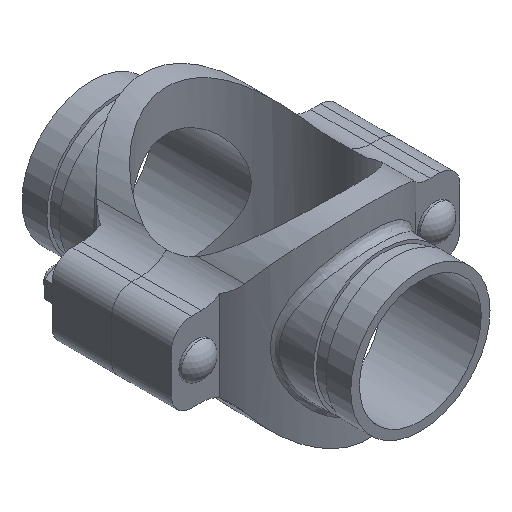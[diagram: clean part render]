
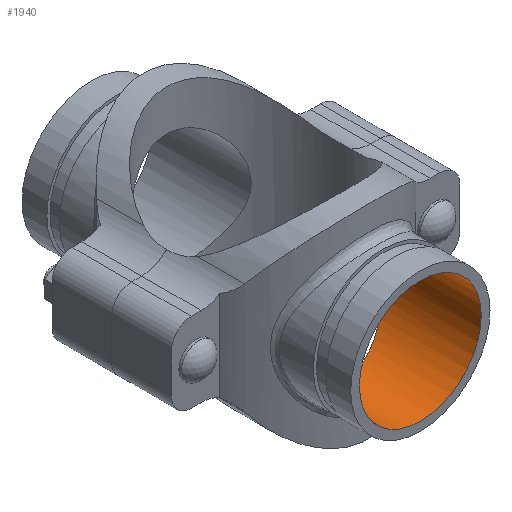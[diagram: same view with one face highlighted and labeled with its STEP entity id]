
A CAD part, isometric view. The second image highlights one B-rep face of the part: STEP entity #1940.
In plain terms, the highlighted cylindrical face has radius 38.894 mm (diameter 77.787 mm), a full revolution.
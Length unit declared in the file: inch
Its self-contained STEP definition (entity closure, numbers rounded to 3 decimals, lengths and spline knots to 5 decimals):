
#48=B_SPLINE_CURVE_WITH_KNOTS('',3,(#3892,#3893,#3894,#3895,#3896,#3897,
#3898,#3899,#3900,#3901,#3902,#3903,#3904,#3905,#3906,#3907,#3908,#3909,
#3910,#3911,#3912,#3913,#3914,#3915,#3916,#3917,#3918,#3919,#3920,#3921,
#3922,#3923,#3924,#3925,#3926,#3927,#3928,#3929,#3930,#3931,#3932,#3933,
#3934,#3935,#3936,#3937,#3938,#3939,#3940,#3941,#3942,#3943,#3944,#3945,
#3946,#3947,#3948,#3949,#3950,#3951,#3952,#3953,#3954,#3955,#3956,#3957),
 .UNSPECIFIED.,.T.,.F.,(4,2,2,2,2,2,2,2,2,2,2,2,2,2,2,2,2,2,2,2,2,2,2,2,
2,2,2,2,2,2,2,2,4),(0.,0.76949,1.53899,2.30848,
3.07797,3.83802,4.59808,5.35813,6.11819,
6.87824,7.63829,8.39835,9.1584,9.9279,
10.69739,11.46688,12.23637,13.00587,13.77536,
14.54485,15.31434,16.0744,16.83445,17.59451,
18.35456,19.11461,19.87467,20.63472,21.39478,
22.16427,22.93376,23.70325,24.47275),
 .UNSPECIFIED.);
#91=CYLINDRICAL_SURFACE('',#2169,1.53125);
#206=FACE_OUTER_BOUND('',#326,.T.);
#326=EDGE_LOOP('',(#1552,#1553,#1554,#1555));
#474=LINE('',#3891,#620);
#620=VECTOR('',#2620,1.53125);
#716=CIRCLE('',#2170,1.53125);
#877=VERTEX_POINT('',#3888);
#878=VERTEX_POINT('',#3890);
#1116=EDGE_CURVE('',#877,#877,#716,.T.);
#1117=EDGE_CURVE('',#877,#878,#474,.T.);
#1118=EDGE_CURVE('',#878,#878,#48,.T.);
#1552=ORIENTED_EDGE('',*,*,#1116,.F.);
#1553=ORIENTED_EDGE('',*,*,#1117,.T.);
#1554=ORIENTED_EDGE('',*,*,#1118,.F.);
#1555=ORIENTED_EDGE('',*,*,#1117,.F.);
#1940=ADVANCED_FACE('',(#206),#91,.F.);
#2169=AXIS2_PLACEMENT_3D('',#3887,#2616,#2617);
#2170=AXIS2_PLACEMENT_3D('',#3889,#2618,#2619);
#2616=DIRECTION('center_axis',(0.,-1.,0.));
#2617=DIRECTION('ref_axis',(-1.,0.,0.));
#2618=DIRECTION('center_axis',(0.,-1.,0.));
#2619=DIRECTION('ref_axis',(-1.,0.,0.));
#2620=DIRECTION('',(0.,-1.,0.));
#3887=CARTESIAN_POINT('Origin',(0.,4.13,0.));
#3888=CARTESIAN_POINT('',(1.53125,4.13,0.));
#3889=CARTESIAN_POINT('Origin',(0.,4.13,0.));
#3890=CARTESIAN_POINT('',(1.53125,1.64857,0.));
#3891=CARTESIAN_POINT('',(1.53125,4.13,0.));
#3892=CARTESIAN_POINT('Ctrl Pts',(1.53125,1.64857,0.));
#3893=CARTESIAN_POINT('Ctrl Pts',(1.53125,1.64857,-0.10098));
#3894=CARTESIAN_POINT('Ctrl Pts',(1.52113,1.65813,-0.20339));
#3895=CARTESIAN_POINT('Ctrl Pts',(1.48054,1.69448,-0.40399));
#3896=CARTESIAN_POINT('Ctrl Pts',(1.45009,1.72113,-0.50223));
#3897=CARTESIAN_POINT('Ctrl Pts',(1.37128,1.78456,-0.6889));
#3898=CARTESIAN_POINT('Ctrl Pts',(1.32285,1.82128,-0.77754));
#3899=CARTESIAN_POINT('Ctrl Pts',(1.21189,1.89693,-0.94118));
#3900=CARTESIAN_POINT('Ctrl Pts',(1.14932,1.9358,-1.01619));
#3901=CARTESIAN_POINT('Ctrl Pts',(1.01701,2.00844,-1.14851));
#3902=CARTESIAN_POINT('Ctrl Pts',(0.94244,2.04503,-1.21092));
#3903=CARTESIAN_POINT('Ctrl Pts',(0.77875,2.11279,-1.32214));
#3904=CARTESIAN_POINT('Ctrl Pts',(0.68961,2.14393,-1.37097));
#3905=CARTESIAN_POINT('Ctrl Pts',(0.50176,2.1955,-1.4503));
#3906=CARTESIAN_POINT('Ctrl Pts',(0.40284,2.21597,-1.48086));
#3907=CARTESIAN_POINT('Ctrl Pts',(0.20184,2.24322,-1.52135));
#3908=CARTESIAN_POINT('Ctrl Pts',(0.09974,2.25,-1.53125));
#3909=CARTESIAN_POINT('Ctrl Pts',(-0.09974,2.25,-1.53125));
#3910=CARTESIAN_POINT('Ctrl Pts',(-0.20184,2.24322,-1.52135));
#3911=CARTESIAN_POINT('Ctrl Pts',(-0.40284,2.21597,-1.48086));
#3912=CARTESIAN_POINT('Ctrl Pts',(-0.50176,2.1955,-1.4503));
#3913=CARTESIAN_POINT('Ctrl Pts',(-0.68961,2.14393,-1.37097));
#3914=CARTESIAN_POINT('Ctrl Pts',(-0.77875,2.11279,-1.32214));
#3915=CARTESIAN_POINT('Ctrl Pts',(-0.94244,2.04503,-1.21092));
#3916=CARTESIAN_POINT('Ctrl Pts',(-1.01701,2.00844,-1.14851));
#3917=CARTESIAN_POINT('Ctrl Pts',(-1.14932,1.9358,-1.01619));
#3918=CARTESIAN_POINT('Ctrl Pts',(-1.21189,1.89693,-0.94118));
#3919=CARTESIAN_POINT('Ctrl Pts',(-1.32285,1.82128,-0.77754));
#3920=CARTESIAN_POINT('Ctrl Pts',(-1.37128,1.78456,-0.6889));
#3921=CARTESIAN_POINT('Ctrl Pts',(-1.45009,1.72113,-0.50223));
#3922=CARTESIAN_POINT('Ctrl Pts',(-1.48054,1.69448,-0.40399));
#3923=CARTESIAN_POINT('Ctrl Pts',(-1.52113,1.65813,-0.20339));
#3924=CARTESIAN_POINT('Ctrl Pts',(-1.53125,1.64857,-0.10098));
#3925=CARTESIAN_POINT('Ctrl Pts',(-1.53125,1.64857,0.10098));
#3926=CARTESIAN_POINT('Ctrl Pts',(-1.52113,1.65813,0.20339));
#3927=CARTESIAN_POINT('Ctrl Pts',(-1.48054,1.69448,0.40399));
#3928=CARTESIAN_POINT('Ctrl Pts',(-1.45009,1.72113,0.50223));
#3929=CARTESIAN_POINT('Ctrl Pts',(-1.37128,1.78456,0.6889));
#3930=CARTESIAN_POINT('Ctrl Pts',(-1.32285,1.82128,0.77754));
#3931=CARTESIAN_POINT('Ctrl Pts',(-1.21189,1.89693,0.94118));
#3932=CARTESIAN_POINT('Ctrl Pts',(-1.14932,1.9358,1.01619));
#3933=CARTESIAN_POINT('Ctrl Pts',(-1.01701,2.00844,1.14851));
#3934=CARTESIAN_POINT('Ctrl Pts',(-0.94244,2.04503,1.21092));
#3935=CARTESIAN_POINT('Ctrl Pts',(-0.77875,2.11279,1.32214));
#3936=CARTESIAN_POINT('Ctrl Pts',(-0.68961,2.14393,1.37097));
#3937=CARTESIAN_POINT('Ctrl Pts',(-0.50176,2.1955,1.4503));
#3938=CARTESIAN_POINT('Ctrl Pts',(-0.40284,2.21597,1.48086));
#3939=CARTESIAN_POINT('Ctrl Pts',(-0.20184,2.24322,1.52135));
#3940=CARTESIAN_POINT('Ctrl Pts',(-0.09974,2.25,1.53125));
#3941=CARTESIAN_POINT('Ctrl Pts',(0.09974,2.25,1.53125));
#3942=CARTESIAN_POINT('Ctrl Pts',(0.20184,2.24322,1.52135));
#3943=CARTESIAN_POINT('Ctrl Pts',(0.40284,2.21597,1.48086));
#3944=CARTESIAN_POINT('Ctrl Pts',(0.50176,2.1955,1.4503));
#3945=CARTESIAN_POINT('Ctrl Pts',(0.68961,2.14393,1.37097));
#3946=CARTESIAN_POINT('Ctrl Pts',(0.77875,2.11279,1.32214));
#3947=CARTESIAN_POINT('Ctrl Pts',(0.94244,2.04503,1.21092));
#3948=CARTESIAN_POINT('Ctrl Pts',(1.01701,2.00844,1.14851));
#3949=CARTESIAN_POINT('Ctrl Pts',(1.14932,1.9358,1.01619));
#3950=CARTESIAN_POINT('Ctrl Pts',(1.21189,1.89693,0.94118));
#3951=CARTESIAN_POINT('Ctrl Pts',(1.32285,1.82128,0.77754));
#3952=CARTESIAN_POINT('Ctrl Pts',(1.37128,1.78456,0.6889));
#3953=CARTESIAN_POINT('Ctrl Pts',(1.45009,1.72113,0.50223));
#3954=CARTESIAN_POINT('Ctrl Pts',(1.48054,1.69448,0.40399));
#3955=CARTESIAN_POINT('Ctrl Pts',(1.52113,1.65813,0.20339));
#3956=CARTESIAN_POINT('Ctrl Pts',(1.53125,1.64857,0.10098));
#3957=CARTESIAN_POINT('Ctrl Pts',(1.53125,1.64857,0.));
